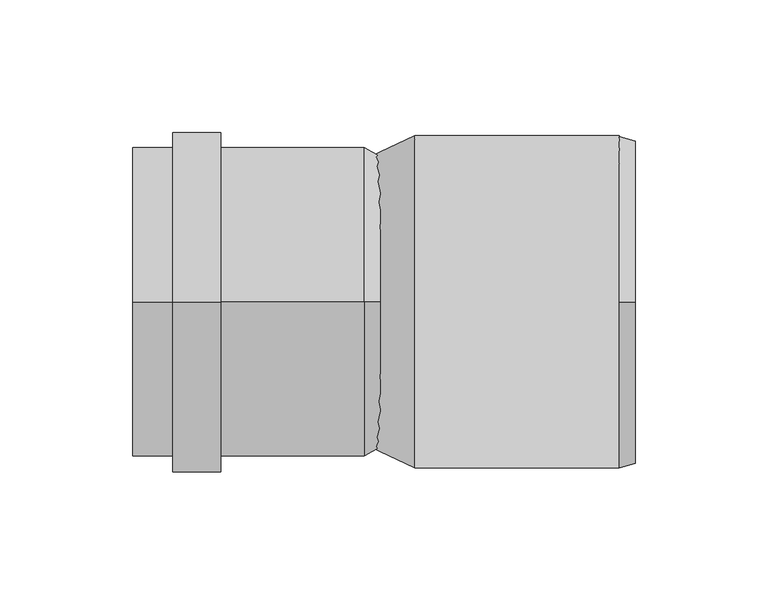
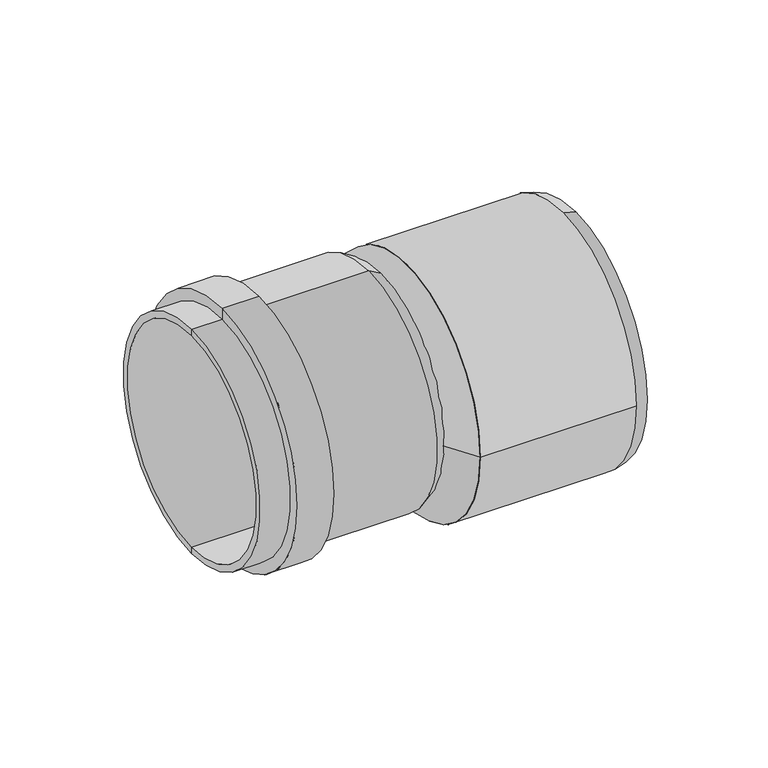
"""IFC4 building model written with IfcOpenShell, lengths in millimetres: pipe fitting geometry, OSMA_KG2000_PPKGR : Redukce nesouosá dlouhá."""

from ifc_helpers import new_model, si_unit, frame, origin, place, context, project, spatial, polyline, circle_curve, source, transform, mapped, element, save
from ifc_brep_helpers import plane_surface, cylinder_surface, revolved_surface, spline_surface, advanced_brep


def pipe_fitting_a664e309(model_context):
    return source(origin(), model_context, "Body", "AdvancedBrep", [
        advanced_brep(
        [(-3.0, 0.0, 55.0), (-3.0, 0.0, -55.0), (-90.0, 0.0, -55.0), (-90.0, 0.0, 55.0), (-57.0, 0.0, 58.4), (-57.0, 0.0, -58.4), (-3.0, 0.0, -58.4), (-3.0, 0.0, 58.4), (-57.0, 0.0, -64.0), (-57.0, 0.0, 64.0), (-75.0, 0.0, -64.0), (-75.0, 0.0, 64.0), (-75.0, 0.0, -58.4), (-75.0, 0.0, 58.4), (-90.0, 0.0, -58.4), (-90.0, 0.0, 58.4), (3.0, 0.0, 51.6), (3.0, 0.0, -51.6), (3.0, 0.0, 55.0), (3.0, 0.0, -55.0)],
        [
            (0, 1, circle_curve(frame((-3.0, 0.0, 0.0), z_axis=(1.0, 0.0, 0.0), x_axis=(0.0, 0.0, -1.0)), 55.0)),
            (1, 2),
            (2, 3, circle_curve(frame((-90.0, 0.0, 0.0), z_axis=(-1.0, 0.0, 0.0), x_axis=(0.0, 0.0, -1.0)), 55.0)),
            (3, 0),
            (1, 0, circle_curve(frame((-3.0, 0.0, 0.0), z_axis=(1.0, 0.0, 0.0), x_axis=(0.0, 0.0, -1.0)), 55.0)),
            (3, 2, circle_curve(frame((-90.0, 0.0, 0.0), z_axis=(-1.0, 0.0, 0.0), x_axis=(0.0, 0.0, -1.0)), 55.0)),
            (4, 5, circle_curve(frame((-57.0, 0.0, 0.0), z_axis=(1.0, 0.0, 0.0), x_axis=(0.0, 0.0, -1.0)), 58.4)),
            (5, 6),
            (6, 7, circle_curve(frame((-3.0, 0.0, 0.0), z_axis=(-1.0, 0.0, 0.0), x_axis=(0.0, 0.0, -1.0)), 58.4)),
            (7, 4),
            (8, 9, circle_curve(frame((-57.0, 0.0, 0.0), z_axis=(1.0, 0.0, 0.0), x_axis=(0.0, 0.0, -1.0)), 64.0)),
            (9, 4),
            (4, 5, circle_curve(frame((-57.0, 0.0, 0.0), z_axis=(-1.0, 0.0, 0.0), x_axis=(0.0, 0.0, -1.0)), 58.4)),
            (5, 8),
            (10, 11, circle_curve(frame((-75.0, 0.0, 0.0), z_axis=(1.0, 0.0, 0.0), x_axis=(0.0, 0.0, -1.0)), 64.0)),
            (11, 9),
            (8, 10),
            (12, 13, circle_curve(frame((-75.0, 0.0, 0.0), z_axis=(1.0, 0.0, 0.0), x_axis=(0.0, 0.0, -1.0)), 58.4)),
            (13, 11),
            (10, 12),
            (14, 15, circle_curve(frame((-90.0, 0.0, 0.0), z_axis=(1.0, 0.0, 0.0), x_axis=(0.0, 0.0, -1.0)), 58.4)),
            (15, 13),
            (12, 14),
            (16, 17, circle_curve(frame((3.0, 0.0, 0.0), z_axis=(1.0, 0.0, 0.0), x_axis=(0.0, 0.0, -1.0)), 51.6)),
            (17, 1),
            (0, 16),
            (17, 16, circle_curve(frame((3.0, 0.0, 0.0), z_axis=(1.0, 0.0, 0.0), x_axis=(0.0, 0.0, -1.0)), 51.6)),
            (18, 19, circle_curve(frame((3.0, 0.0, 0.0), z_axis=(1.0, 0.0, 0.0), x_axis=(0.0, 0.0, -1.0)), 55.0)),
            (19, 17),
            (16, 18),
            (19, 18, circle_curve(frame((3.0, 0.0, 0.0), z_axis=(1.0, 0.0, 0.0), x_axis=(0.0, 0.0, -1.0)), 55.0)),
            (6, 19),
            (18, 7),
            (6, 7, circle_curve(frame((-3.0, 0.0, 0.0), z_axis=(1.0, 0.0, 0.0), x_axis=(0.0, 0.0, -1.0)), 58.4)),
            (9, 8, circle_curve(frame((-57.0, 0.0, 0.0), z_axis=(1.0, 0.0, 0.0), x_axis=(0.0, 0.0, -1.0)), 64.0)),
            (11, 10, circle_curve(frame((-75.0, 0.0, 0.0), z_axis=(1.0, 0.0, 0.0), x_axis=(0.0, 0.0, -1.0)), 64.0)),
            (13, 12, circle_curve(frame((-75.0, 0.0, 0.0), z_axis=(1.0, 0.0, 0.0), x_axis=(0.0, 0.0, -1.0)), 58.4)),
            (15, 14, circle_curve(frame((-90.0, 0.0, 0.0), z_axis=(1.0, 0.0, 0.0), x_axis=(0.0, 0.0, -1.0)), 58.4)),
            (2, 14),
            (15, 3),
        ],
        [
            revolved_surface(polyline([(-90.0, 0.0, -55.0), (-3.0, 0.0, -55.0)]), (-2759.4742198, 0.0, 0.0), (-1.0, 0.0, 0.0)),
            cylinder_surface(frame((-2759.4742198, 0.0, 0.0), z_axis=(-1.0, 0.0, 0.0), x_axis=(0.0, 0.0, -1.0)), 58.4),
            plane_surface(frame((-57.0, 0.0, 0.0), z_axis=(1.0, 0.0, 0.0), x_axis=(0.0, 0.0, -1.0))),
            cylinder_surface(frame((-2759.4742198, 0.0, 0.0), z_axis=(-1.0, 0.0, 0.0), x_axis=(0.0, 0.0, -1.0)), 64.0),
            plane_surface(frame((-75.0, 0.0, 0.0), z_axis=(-1.0, 0.0, 0.0), x_axis=(0.0, 0.0, -1.0))),
            revolved_surface(polyline([(-3.0, 0.0, -55.0), (3.0, 0.0, -51.6)]), (-2759.4742198, 0.0, 0.0), (-1.0, 0.0, 0.0)),
            plane_surface(frame((3.0, 0.0, 0.0), z_axis=(1.0, 0.0, 0.0), x_axis=(0.0, 0.0, -1.0))),
            revolved_surface(polyline([(3.0, 0.0, -55.0), (-3.0, 0.0, -58.4)]), (-2759.4742198, 0.0, 0.0), (-1.0, 0.0, 0.0)),
            plane_surface(frame((-90.0, 0.0, 0.0), z_axis=(-1.0, 0.0, 0.0), x_axis=(0.0, 0.0, -1.0))),
        ],
        [
            (0, [[1, 2, 3, 4]]),
            (0, [[5, -4, 6, -2]]),
            (1, [[7, 8, 9, 10]]),
            (2, [[11, 12, 13, 14]]),
            (3, [[15, 16, -11, 17]]),
            (4, [[18, 19, -15, 20]]),
            (1, [[21, 22, -18, 23]]),
            (5, [[24, 25, -1, 26]]),
            (5, [[27, -26, -5, -25]]),
            (6, [[28, 29, -24, 30]]),
            (6, [[31, -30, -27, -29]]),
            (7, [[-9, 32, -28, 33]]),
            (7, [[34, -33, -31, -32]]),
            (1, [[-13, -10, -34, -8]]),
            (2, [[35, -14, -7, -12]]),
            (3, [[36, -17, -35, -16]]),
            (4, [[37, -20, -36, -19]]),
            (1, [[38, -23, -37, -22]]),
            (8, [[-3, 39, -38, 40]]),
            (8, [[-6, -40, -21, -39]]),
        ],
    ),
        advanced_brep(
        [(99.0, 0.0, -68.3923048), (99.0, 0.0, 53.3923048), (99.0, 0.0, 51.1), (99.0, 0.0, -66.1), (93.0, 0.0, -70.0), (93.0, 62.5, -7.5), (93.0, 0.0, 55.0), (93.0, -62.5, -7.5), (93.0, 0.0, 51.1), (93.0, 0.0, -66.1), (16.0, 62.5, -7.5), (16.0, -62.5, -7.5)],
        [
            (0, 1, circle_curve(frame((99.0, 0.0, -7.5), z_axis=(1.0, 0.0, 0.0), x_axis=(0.0, 0.0, 1.0)), 60.8923048)),
            (1, 2),
            (2, 3, circle_curve(frame((99.0, 0.0, -7.5), z_axis=(-1.0, 0.0, 0.0), x_axis=(0.0, 0.0, 1.0)), 58.6)),
            (3, 0),
            (1, 0, circle_curve(frame((99.0, 0.0, -7.5), z_axis=(1.0, 0.0, 0.0), x_axis=(0.0, 0.0, 1.0)), 60.8923048)),
            (3, 2, circle_curve(frame((99.0, 0.0, -7.5), z_axis=(-1.0, 0.0, 0.0), x_axis=(0.0, 0.0, 1.0)), 58.6)),
            (0, 4),
            (4, 5, circle_curve(frame((93.0, 0.0, -7.5), z_axis=(1.0, 0.0, 0.0), x_axis=(0.0, 0.0, 1.0)), 62.5)),
            (5, 6, circle_curve(frame((93.0, 0.0, -7.5), z_axis=(1.0, 0.0, 0.0), x_axis=(0.0, 0.0, 1.0)), 62.5)),
            (6, 1),
            (6, 7, circle_curve(frame((93.0, 0.0, -7.5), z_axis=(1.0, 0.0, 0.0), x_axis=(0.0, 0.0, 1.0)), 62.5)),
            (7, 4, circle_curve(frame((93.0, 0.0, -7.5), z_axis=(1.0, 0.0, 0.0), x_axis=(0.0, 0.0, 1.0)), 62.5)),
            (2, 8),
            (8, 9, circle_curve(frame((93.0, 0.0, -7.5), z_axis=(-1.0, 0.0, 0.0), x_axis=(0.0, 0.0, 1.0)), 58.6)),
            (9, 3),
            (9, 8, circle_curve(frame((93.0, 0.0, -7.5), z_axis=(-1.0, 0.0, 0.0), x_axis=(0.0, 0.0, 1.0)), 58.6)),
            (10, 11, circle_curve(frame((16.0, 0.0, -7.5), z_axis=(-1.0, 0.0, 0.0), x_axis=(0.0, -1.0, 0.0)), 62.5)),
            (11, 10, circle_curve(frame((16.0, 0.0, -7.5), z_axis=(-1.0, 0.0, 0.0), x_axis=(0.0, -1.0, 0.0)), 62.5)),
            (11, 7),
            (5, 10),
        ],
        [
            plane_surface(frame((99.0, 0.0, -7.5), z_axis=(1.0, 0.0, 0.0), x_axis=(0.0, 0.0, 1.0))),
            revolved_surface(polyline([(99.0, 0.0, 53.3923048), (93.0, 0.0, 55.0)]), (34.4287569, 0.0, -7.5), (-1.0, 0.0, 0.0)),
            revolved_surface(polyline([(93.0, 0.0, 51.1), (99.0, 0.0, 51.1)]), (34.4287569, 0.0, -7.5), (-1.0, 0.0, 0.0)),
            plane_surface(frame((93.0, 0.0, 0.0), z_axis=(1.0, 0.0, 0.0), x_axis=(0.0, 0.0, 1.0))),
            plane_surface(frame((16.0, 0.0, 0.0), z_axis=(-1.0, 0.0, 0.0), x_axis=(0.0, 0.0, 1.0))),
            cylinder_surface(frame((93.0, 0.0, -7.5), z_axis=(1.0, 0.0, 0.0), x_axis=(0.0, -1.0, 0.0)), 62.5),
        ],
        [
            (0, [[1, 2, 3, 4]]),
            (0, [[-2, 5, -4, 6]]),
            (1, [[-1, 7, 8, 9, 10]]),
            (1, [[-5, -10, 11, 12, -7]]),
            (2, [[-3, 13, 14, 15]]),
            (2, [[-6, -15, 16, -13]]),
            (3, [[-14, -16]]),
            (4, [[17, 18]]),
            (5, [[-18, 19, -11, -9, 20]]),
            (5, [[-17, -20, -8, -12, -19]]),
        ],
    ),
        advanced_brep(
        [(0.0, 55.0, 0.0), (0.0, -55.0, 0.0), (16.0, 62.5, -7.5), (16.0, -62.5, -7.5)],
        [
            (0, 1, circle_curve(frame((0.0, 0.0, 0.0), z_axis=(-1.0, 0.0, 0.0), x_axis=(0.0, -1.0, 0.0)), 55.0)),
            (1, 0, circle_curve(frame((0.0, 0.0, 0.0), z_axis=(-1.0, 0.0, 0.0), x_axis=(0.0, -1.0, 0.0)), 55.0)),
            (2, 3, circle_curve(frame((16.0, 0.0, -7.5), z_axis=(1.0, 0.0, 0.0), x_axis=(0.0, -1.0, 0.0)), 62.5)),
            (3, 2, circle_curve(frame((16.0, 0.0, -7.5), z_axis=(1.0, 0.0, 0.0), x_axis=(0.0, -1.0, 0.0)), 62.5)),
            (3, 1),
            (0, 2),
        ],
        [
            plane_surface(frame((0.0, 0.0, 0.0), z_axis=(-1.0, 0.0, 0.0), x_axis=(0.0, 0.0, -1.0))),
            plane_surface(frame((16.0, 0.0, -7.5), z_axis=(1.0, 0.0, 0.0), x_axis=(0.0, 0.0, -1.0))),
            spline_surface(2, 1, [[(16.0, 62.5, -7.5), (0.0, 55.0, 0.0)], [(16.0, 62.5, -70.0), (0.0, 55.0, -55.0)], [(16.0, 0.0, -70.0), (0.0, 0.0, -55.0)], [(16.0, -62.5, -70.0), (0.0, -55.0, -55.0)], [(16.0, -62.5, -7.5), (0.0, -55.0, 0.0)]], [3, 2, 3], [2, 2], [0.0, 1.0, 2.0], [0.0, 1.0], weights=[[1.0, 1.0], [0.7071067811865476, 0.7071067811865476], [1.0, 1.0], [0.7071067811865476, 0.7071067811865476], [1.0, 1.0]]),
            spline_surface(2, 1, [[(16.0, -62.5, -7.5), (0.0, -55.0, 0.0)], [(16.0, -62.5, 55.0), (0.0, -55.0, 55.0)], [(16.0, 0.0, 55.0), (0.0, 0.0, 55.0)], [(16.0, 62.5, 55.0), (0.0, 55.0, 55.0)], [(16.0, 62.5, -7.5), (0.0, 55.0, 0.0)]], [3, 2, 3], [2, 2], [0.0, 1.0, 2.0], [0.0, 1.0], weights=[[1.0, 1.0], [0.7071067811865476, 0.7071067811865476], [1.0, 1.0], [0.7071067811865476, 0.7071067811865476], [1.0, 1.0]]),
        ],
        [
            (0, [[1, 2]]),
            (1, [[3, 4]]),
            (2, [[-4, 5, -1, 6]]),
            (3, [[-3, -6, -2, -5]]),
        ],
    ),
    ])


if __name__ == "__main__":
    model = new_model("IFC4")
    model_context = context("Model", 3, world=origin())
    ifc_project = project(units=[si_unit("LENGTHUNIT", "METRE", prefix="MILLI")], contexts=[model_context])
    site = spatial("IfcSite", under=ifc_project)
    building = spatial("IfcBuilding", under=site)
    placement = place(None, origin())
    pipe_fitting_shape = pipe_fitting_a664e309(model_context)
    element("IfcPipeFitting", 1, ObjectType="OSMA_KG2000_PPKGR : Redukce nesouosá dlouhá", at=placement, inside=building, context=model_context, shape_type="MappedRepresentation", body=[
        mapped(pipe_fitting_shape, transform((0.0, 0.0, 0.0), x_axis=(1.0, 0.0, 0.0), y_axis=(0.0, 1.0, 0.0), z_axis=(0.0, 0.0, 1.0))),
    ])
    save(model, "model.ifc")
